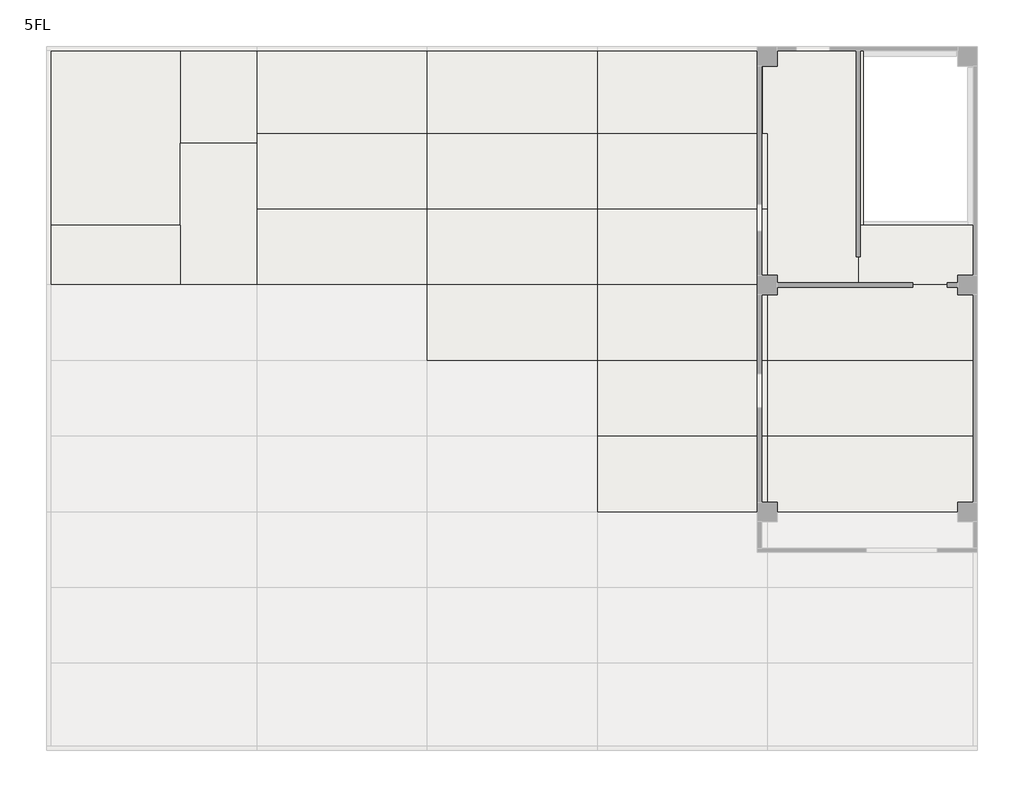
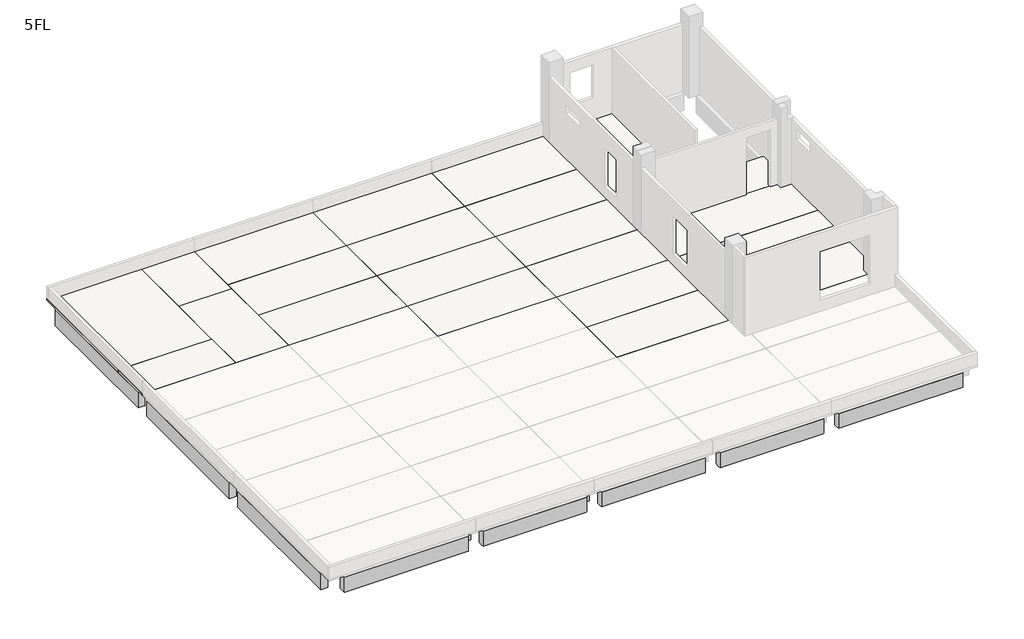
# One storey, part 2 of 3: 22 slabs, 17 beams.
"""IFC4 building model written with IfcOpenShell, lengths in millimetres."""

from ifc_helpers import new_model, si_unit, frame, origin, place, context, project, spatial, polyline, outline, extrude, faceted_brep, element, save

model = new_model("IFC4")

# Units and contexts
model_context = context("Model", 3, world=origin())
ifc_project = project(units=[si_unit("LENGTHUNIT", "METRE", prefix="MILLI")], contexts=[model_context])

# Site, building, storey
site = spatial("IfcSite", under=ifc_project)
building = spatial("IfcBuilding", under=site)
storey = spatial("IfcBuildingStorey", under=building, Name="5FL", Elevation=16400.0)

# Beams
placement = place(None, origin())
element("IfcBeam", 1, ObjectType="RC_B : 5G1", at=placement, inside=storey, context=model_context, shape_type="Brep", body=[
    faceted_brep([(6625.0, -50.0, 16240.0), (6625.0, -50.0, 15450.0), (350.0, -50.0, 15450.0), (350.0, -50.0, 16240.0), (6625.0, -400.0, 15450.0), (6600.0, -400.0, 15450.0), (375.0, -400.0, 15450.0), (350.0, -400.0, 15450.0), (6625.0, -400.0, 16240.0), (350.0, -400.0, 16240.0)], [[[0, 1, 2, 3]], [[1, 4, 5, 6, 7, 2]], [[4, 8, 9, 7, 6, 5]], [[4, 1, 0, 8]], [[8, 0, 3, 9]], [[3, 2, 7, 9]]]),
])
element("IfcBeam", 2, ObjectType="RC_B : 5G1", at=placement, inside=storey, context=model_context, shape_type="Brep", body=[
    faceted_brep([(12625.0, -50.0, 15450.0), (7375.0, -50.0, 15450.0), (7375.0, -50.0, 16240.0), (12625.0, -50.0, 16240.0), (7375.0, -400.0, 15450.0), (7375.0, -250.0, 15450.0), (12625.0, -400.0, 15450.0), (12600.0, -400.0, 15450.0), (12625.0, -400.0, 16240.0), (7375.0, -400.0, 16240.0)], [[[0, 1, 2, 3]], [[4, 5, 1, 0, 6, 7]], [[4, 7, 6, 8, 9]], [[1, 5, 4, 9, 2]], [[6, 0, 3, 8]], [[3, 2, 9, 8]]]),
])
element("IfcBeam", 3, ObjectType="RC_B : 5G1", at=placement, inside=storey, context=model_context, shape_type="Brep", body=[
    faceted_brep([(18625.0, -50.0, 15450.0), (13375.0, -50.0, 15450.0), (13375.0, -50.0, 16240.0), (18625.0, -50.0, 16240.0), (13375.0, -400.0, 15450.0), (13375.0, -250.0, 15450.0), (18625.0, -400.0, 15450.0), (18600.0, -400.0, 15450.0), (18625.0, -400.0, 16240.0), (13375.0, -400.0, 16240.0)], [[[0, 1, 2, 3]], [[4, 5, 1, 0, 6, 7]], [[4, 7, 6, 8, 9]], [[1, 5, 4, 9, 2]], [[6, 0, 3, 8]], [[3, 2, 9, 8]]]),
])
element("IfcBeam", 4, ObjectType="RC_B : 5G1", at=placement, inside=storey, context=model_context, shape_type="Brep", body=[
    faceted_brep([(24625.0, -50.0, 15450.0), (19375.0, -50.0, 15450.0), (19375.0, -50.0, 16240.0), (24625.0, -50.0, 16240.0), (19375.0, -400.0, 15450.0), (19375.0, -250.0, 15450.0), (24625.0, -400.0, 15450.0), (24600.0, -400.0, 15450.0), (24625.0, -400.0, 16240.0), (19375.0, -400.0, 16240.0)], [[[0, 1, 2, 3]], [[4, 5, 1, 0, 6, 7]], [[4, 7, 6, 8, 9]], [[1, 5, 4, 9, 2]], [[6, 0, 3, 8]], [[3, 2, 9, 8]]]),
])
element("IfcBeam", 5, ObjectType="RC_B : 5G1", at=placement, inside=storey, context=model_context, shape_type="Brep", body=[
    faceted_brep([(31650.0, -50.0, 15450.0), (25375.0, -50.0, 15450.0), (25375.0, -50.0, 16240.0), (31650.0, -50.0, 16240.0), (25375.0, -400.0, 15450.0), (25375.0, -250.0, 15450.0), (31650.0, -250.0, 15450.0), (31650.0, -400.0, 15450.0), (31650.0, -400.0, 16240.0), (25375.0, -400.0, 16240.0)], [[[0, 1, 2, 3]], [[4, 5, 1, 0, 6, 7]], [[4, 7, 8, 9]], [[1, 5, 4, 9, 2]], [[7, 6, 0, 3, 8]], [[3, 2, 9, 8]]]),
])
element("IfcBeam", 6, ObjectType="RC_B : 5G11", at=placement, inside=storey, context=model_context, shape_type="Brep", body=[
    faceted_brep([(-400.0, 7625.0, 16240.0), (-400.0, 7625.0, 15400.0), (-400.0, 350.0, 15400.0), (-400.0, 350.0, 16240.0), (-400.0, 2664.0, 16240.0), (-400.0, 5328.0, 16240.0), (-250.0, 7625.0, 15400.0), (-50.0, 7625.0, 15400.0), (-50.0, 350.0, 15400.0), (-250.0, 350.0, 15400.0), (-50.0, 7625.0, 16240.0), (-50.0, 5505.0, 16240.0), (-50.0, 5155.0, 16240.0), (-50.0, 2835.0, 16240.0), (-50.0, 2485.0, 16240.0), (-50.0, 350.0, 16240.0)], [[[0, 1, 2, 3, 4, 5]], [[1, 6, 7, 8, 9, 2]], [[7, 10, 11, 12, 13, 14, 15, 8]], [[7, 6, 1, 0, 10]], [[10, 0, 5, 4, 3, 15, 14, 13, 12, 11]], [[3, 2, 9, 8, 15]]]),
])
element("IfcBeam", 7, ObjectType="RC_B : 5G11", at=placement, inside=storey, context=model_context, shape_type="Brep", body=[
    faceted_brep([(-400.0, 15625.0, 16240.0), (-400.0, 15625.0, 15400.0), (-400.0, 8375.0, 15400.0), (-400.0, 8375.0, 16240.0), (-400.0, 10664.0, 16240.0), (-400.0, 13328.0, 16240.0), (-250.0, 15625.0, 15400.0), (-50.0, 15625.0, 15400.0), (-50.0, 8375.0, 15400.0), (-250.0, 8375.0, 15400.0), (-50.0, 15625.0, 16240.0), (-50.0, 13675.0, 16240.0), (-50.0, 13325.0, 16240.0), (-50.0, 10925.0, 16240.0), (-50.0, 10575.0, 16240.0), (-50.0, 8375.0, 16240.0)], [[[0, 1, 2, 3, 4, 5]], [[1, 6, 7, 8, 9, 2]], [[7, 10, 11, 12, 13, 14, 15, 8]], [[7, 6, 1, 0, 10]], [[10, 0, 5, 4, 3, 15, 14, 13, 12, 11]], [[3, 2, 9, 8, 15]]]),
])
element("IfcBeam", 8, ObjectType="RC_B : 5G11", at=placement, inside=storey, context=model_context, shape_type="Brep", body=[
    faceted_brep([(-400.0, 23650.0, 16240.0), (-400.0, 23650.0, 15400.0), (-400.0, 16375.0, 15400.0), (-400.0, 16375.0, 16240.0), (-400.0, 18100.0, 16240.0), (-250.0, 23650.0, 15400.0), (-50.0, 23650.0, 15400.0), (-50.0, 16375.0, 15400.0), (-250.0, 16375.0, 15400.0), (-50.0, 23650.0, 16240.0), (-50.0, 18225.0, 16240.0), (-50.0, 17975.0, 16240.0), (-50.0, 16375.0, 16240.0)], [[[0, 1, 2, 3, 4]], [[1, 5, 6, 7, 8, 2]], [[6, 9, 10, 11, 12, 7]], [[6, 5, 1, 0, 9]], [[9, 0, 4, 3, 12, 11, 10]], [[3, 2, 8, 7, 12]]]),
])
element("IfcBeam", 9, ObjectType="RC_B : 5G12", at=placement, inside=storey, context=model_context, shape_type="Brep", body=[
    faceted_brep([(6825.0, 350.0, 15400.0), (6825.0, 350.0, 16300.0), (6825.0, 2664.0, 16300.0), (6825.0, 2664.0, 16240.0), (6825.0, 2835.0, 16240.0), (6825.0, 5155.0, 16240.0), (6825.0, 5505.0, 16240.0), (6825.0, 7625.0, 16240.0), (6825.0, 7625.0, 15400.0), (7175.0, 350.0, 15400.0), (7175.0, 7625.0, 15400.0), (7175.0, 350.0, 16300.0), (7175.0, 7625.0, 16240.0), (7175.0, 2664.0, 16240.0), (7175.0, 2664.0, 16300.0), (7175.0, 2485.0, 16300.0), (7000.0, 7625.0, 16240.0), (7000.0, 2664.0, 16240.0)], [[[0, 1, 2, 3, 4, 5, 6, 7, 8]], [[9, 0, 8, 10]], [[11, 9, 10, 12, 13, 14, 15]], [[1, 11, 15, 14, 2]], [[1, 0, 9, 11]], [[10, 8, 7, 16, 12]], [[7, 6, 5, 4, 3, 17, 13, 12, 16]], [[3, 2, 14, 13, 17]]]),
])
element("IfcBeam", 10, ObjectType="RC_B : 5G12", at=placement, inside=storey, context=model_context, shape_type="Brep", body=[
    faceted_brep([(12825.0, 350.0, 15400.0), (12825.0, 350.0, 16300.0), (12825.0, 2485.0, 16300.0), (12825.0, 2664.0, 16300.0), (12825.0, 2664.0, 16240.0), (12825.0, 7625.0, 16240.0), (12825.0, 7625.0, 15400.0), (13175.0, 350.0, 15400.0), (13175.0, 7625.0, 15400.0), (13175.0, 350.0, 16300.0), (13175.0, 7625.0, 16240.0), (13175.0, 2664.0, 16240.0), (13175.0, 2664.0, 16300.0), (13175.0, 2485.0, 16300.0), (13000.0, 7625.0, 16240.0)], [[[0, 1, 2, 3, 4, 5, 6]], [[7, 0, 6, 8]], [[9, 7, 8, 10, 11, 12, 13]], [[1, 9, 13, 12, 3, 2]], [[1, 0, 7, 9]], [[8, 6, 5, 14, 10]], [[5, 4, 11, 10, 14]], [[4, 3, 12, 11]]]),
])
element("IfcBeam", 11, ObjectType="RC_B : 5G2", at=placement, inside=storey, context=model_context, shape_type="Brep", body=[
    faceted_brep([(6625.0, 8175.0, 15450.0), (0.0, 8175.0, 15450.0), (0.0, 8175.0, 16240.0), (6625.0, 8175.0, 16240.0), (6625.0, 7825.0, 15450.0), (0.0, 7825.0, 15450.0), (6625.0, 7825.0, 16240.0), (0.0, 7825.0, 16240.0), (6625.0, 8000.0, 16240.0)], [[[0, 1, 2, 3]], [[0, 4, 5, 1]], [[5, 4, 6, 7]], [[4, 0, 3, 8, 6]], [[1, 5, 7, 2]], [[7, 6, 8, 3, 2]]]),
])
element("IfcBeam", 12, ObjectType="RC_B : B1", at=placement, inside=storey, context=model_context, shape_type="Brep", body=[
    faceted_brep([(6825.0, 2835.0, 15550.0), (-50.0, 2835.0, 15550.0), (-50.0, 2835.0, 16240.0), (6825.0, 2835.0, 16240.0), (6825.0, 2485.0, 15550.0), (-50.0, 2485.0, 15550.0), (6825.0, 2485.0, 16240.0), (-50.0, 2485.0, 16240.0), (6825.0, 2664.0, 16240.0)], [[[0, 1, 2, 3]], [[0, 4, 5, 1]], [[5, 4, 6, 7]], [[4, 0, 3, 8, 6]], [[1, 5, 7, 2]], [[7, 6, 8, 3, 2]]]),
])
element("IfcBeam", 13, ObjectType="RC_B : B1", at=placement, inside=storey, context=model_context, shape_type="SweptSolid", body=[
    extrude(outline(polyline([(6825.0, 5505.0), (6825.0, 5155.0), (-50.0, 5155.0), (-50.0, 5505.0), (6825.0, 5505.0)])), frame((0.0, 0.0, 15550.0), z_axis=(0.0, 0.0, 1.0), x_axis=(1.0, 0.0, 0.0)), (0.0, 0.0, 1.0), 690.0),
])
element("IfcBeam", 14, ObjectType="RC_B : B1", at=placement, inside=storey, context=model_context, shape_type="Brep", body=[
    faceted_brep([(7175.0, 2835.0, 15550.0), (7175.0, 2835.0, 16300.0), (12825.0, 2835.0, 16300.0), (12825.0, 2835.0, 15550.0), (7175.0, 2485.0, 15550.0), (12825.0, 2485.0, 15550.0), (7175.0, 2485.0, 16300.0), (12825.0, 2485.0, 16300.0), (7175.0, 2664.0, 16300.0), (12825.0, 2664.0, 16300.0)], [[[0, 1, 2, 3]], [[4, 0, 3, 5]], [[6, 4, 5, 7]], [[1, 8, 6, 7, 9, 2]], [[1, 0, 4, 6, 8]], [[3, 2, 9, 7, 5]]]),
])
element("IfcBeam", 15, ObjectType="RC_B : B1", at=placement, inside=storey, context=model_context, shape_type="SweptSolid", body=[
    extrude(outline(polyline([(7175.0, 5155.0), (7175.0, 5505.0), (12825.0, 5505.0), (12825.0, 5155.0), (7175.0, 5155.0)])), frame((0.0, 0.0, 15550.0), z_axis=(0.0, 0.0, 1.0), x_axis=(1.0, 0.0, 0.0)), (0.0, 0.0, 1.0), 750.0),
])
element("IfcBeam", 16, ObjectType="RC_B : B1", at=placement, inside=storey, context=model_context, shape_type="Brep", body=[
    faceted_brep([(6825.0, 10925.0, 15550.0), (-50.0, 10925.0, 15550.0), (-50.0, 10925.0, 16240.0), (6825.0, 10925.0, 16240.0), (6825.0, 10575.0, 15550.0), (-50.0, 10575.0, 15550.0), (6825.0, 10575.0, 16240.0), (-50.0, 10575.0, 16240.0), (6825.0, 10664.0, 16240.0)], [[[0, 1, 2, 3]], [[0, 4, 5, 1]], [[5, 4, 6, 7]], [[4, 0, 3, 8, 6]], [[1, 5, 7, 2]], [[7, 6, 8, 3, 2]]]),
])
element("IfcBeam", 17, ObjectType="RC_B : B1", at=placement, inside=storey, context=model_context, shape_type="SweptSolid", body=[
    extrude(outline(polyline([(6825.0, 13675.0), (6825.0, 13325.0), (-50.0, 13325.0), (-50.0, 13675.0), (6825.0, 13675.0)])), frame((0.0, 0.0, 15550.0), z_axis=(0.0, 0.0, 1.0), x_axis=(1.0, 0.0, 0.0)), (0.0, 0.0, 1.0), 690.0),
])

# Slabs
element("IfcSlab", 18, ObjectType="S1", at=placement, inside=storey, context=model_context, shape_type="Brep", body=[
    faceted_brep([(25000.0, 10664.0, 16240.0), (32400.0, 10664.0, 16240.0), (32400.0, 8375.0, 16240.0), (32050.0, 8375.0, 16240.0), (31650.0, 8375.0, 16240.0), (31650.0, 8175.0, 16240.0), (31650.0, 8000.0, 16240.0), (25375.0, 8000.0, 16240.0), (25375.0, 8375.0, 16240.0), (25000.0, 8375.0, 16240.0), (25000.0, 8000.0, 16390.0), (32400.0, 8000.0, 16390.0), (32400.0, 8350.0, 16390.0), (32400.0, 10664.0, 16390.0), (25000.0, 10664.0, 16390.0), (25000.0, 8000.0, 16300.0), (25375.0, 8000.0, 16300.0), (31650.0, 8000.0, 16300.0), (32400.0, 8000.0, 16300.0), (25000.0, 8375.0, 16300.0), (32400.0, 8375.0, 16300.0), (25375.0, 8375.0, 16300.0), (31650.0, 8375.0, 16300.0)], [[[0, 1, 2, 3, 4, 5, 6, 7, 8, 9]], [[10, 11, 12, 13, 14]], [[11, 10, 15, 16, 7, 6, 17, 18]], [[10, 14, 0, 9, 19, 15]], [[1, 0, 14, 13]], [[13, 12, 11, 18, 20, 2, 1]], [[21, 8, 7, 16]], [[8, 21, 19, 9]], [[21, 16, 15, 19]], [[4, 22, 17, 6, 5]], [[20, 22, 4, 3, 2]], [[22, 20, 18, 17]]]),
])
element("IfcSlab", 19, ObjectType="S1", at=placement, inside=storey, context=model_context, shape_type="Brep", body=[
    faceted_brep([(32400.0, 13328.0, 16240.0), (32400.0, 10664.0, 16240.0), (25175.0, 10664.0, 16240.0), (25000.0, 10664.0, 16240.0), (25000.0, 13328.0, 16240.0), (32400.0, 13328.0, 16390.0), (25000.0, 13328.0, 16390.0), (25000.0, 10664.0, 16390.0), (32400.0, 10664.0, 16390.0)], [[[0, 1, 2, 3, 4]], [[5, 6, 7, 8]], [[1, 0, 5, 8]], [[3, 2, 1, 8, 7]], [[4, 3, 7, 6]], [[0, 4, 6, 5]]]),
])
element("IfcSlab", 20, ObjectType="S1", at=placement, inside=storey, context=model_context, shape_type="Brep", body=[
    faceted_brep([(32400.0, 13328.0, 16240.0), (25000.0, 13328.0, 16240.0), (25000.0, 15625.0, 16240.0), (25175.0, 15625.0, 16240.0), (25375.0, 15625.0, 16240.0), (25375.0, 16000.0, 16240.0), (28024.0, 16000.0, 16240.0), (28221.0, 16000.0, 16240.0), (31650.0, 16000.0, 16240.0), (31650.0, 15825.0, 16240.0), (31650.0, 15625.0, 16240.0), (32050.0, 15625.0, 16240.0), (32400.0, 15625.0, 16240.0), (25000.0, 13328.0, 16390.0), (32400.0, 13328.0, 16390.0), (32400.0, 15650.0, 16390.0), (32250.0, 15650.0, 16390.0), (31700.0, 15650.0, 16390.0), (31700.0, 16000.0, 16390.0), (28221.0, 16000.0, 16390.0), (25350.0, 16000.0, 16390.0), (25350.0, 15650.0, 16390.0), (25000.0, 15650.0, 16390.0), (32400.0, 15625.0, 16300.0), (32400.0, 15650.0, 16300.0), (25000.0, 15650.0, 16300.0), (25000.0, 15625.0, 16300.0), (25375.0, 16000.0, 16300.0), (25350.0, 16000.0, 16300.0), (31700.0, 16000.0, 16300.0), (31650.0, 16000.0, 16300.0), (25375.0, 15625.0, 16300.0), (25350.0, 15650.0, 16300.0), (31650.0, 15625.0, 16300.0), (31700.0, 15650.0, 16300.0)], [[[0, 1, 2, 3, 4, 5, 6, 7, 8, 9, 10, 11, 12]], [[13, 14, 15, 16, 17, 18, 19, 20, 21, 22]], [[14, 0, 12, 23, 24, 15]], [[1, 0, 14, 13]], [[1, 13, 22, 25, 26, 2]], [[5, 27, 28, 20, 19, 18, 29, 30, 8, 7, 6]], [[4, 31, 27, 5]], [[31, 4, 3, 2, 26]], [[27, 31, 26, 25, 32, 28]], [[32, 21, 20, 28]], [[21, 32, 25, 22]], [[33, 23, 12, 11, 10]], [[33, 10, 9, 8, 30]], [[23, 33, 30, 29, 34, 24]], [[34, 17, 16, 15, 24]], [[17, 34, 29, 18]]]),
])
element("IfcSlab", 21, ObjectType="S1", at=placement, inside=storey, context=model_context, shape_type="Brep", body=[
    faceted_brep([(25375.0, 16000.0, 16240.0), (25375.0, 16375.0, 16240.0), (25000.0, 16375.0, 16240.0), (25000.0, 18664.0, 16240.0), (25000.0, 21165.0, 16240.0), (25000.0, 21328.0, 16240.0), (24825.0, 21328.0, 16240.0), (24825.0, 21515.0, 16240.0), (24825.0, 23650.0, 16240.0), (25175.0, 23650.0, 16240.0), (25375.0, 23650.0, 16240.0), (25375.0, 24050.0, 16240.0), (28024.0, 24050.0, 16240.0), (28024.0, 16000.0, 16240.0), (25350.0, 16350.0, 16390.0), (25350.0, 16000.0, 16390.0), (28221.0, 16000.0, 16390.0), (28221.0, 18100.0, 16390.0), (28374.0, 18100.0, 16390.0), (28374.0, 24250.0, 16390.0), (28374.0, 24400.0, 16390.0), (25350.0, 24400.0, 16390.0), (25350.0, 24250.0, 16390.0), (25350.0, 23700.0, 16390.0), (24825.0, 23700.0, 16390.0), (24825.0, 21328.0, 16390.0), (25000.0, 21328.0, 16390.0), (25000.0, 18664.0, 16390.0), (25000.0, 16350.0, 16390.0), (25375.0, 16000.0, 16300.0), (28024.0, 16000.0, 16300.0), (28221.0, 16000.0, 16300.0), (25350.0, 16000.0, 16300.0), (24825.0, 23650.0, 16300.0), (24825.0, 21328.0, 16300.0), (24825.0, 23700.0, 16300.0), (28374.0, 24400.0, 16300.0), (25375.0, 24400.0, 16300.0), (25350.0, 24400.0, 16300.0), (28374.0, 18100.0, 16300.0), (28374.0, 24050.0, 16300.0), (28374.0, 24250.0, 16300.0), (25375.0, 16375.0, 16300.0), (25000.0, 16375.0, 16300.0), (25350.0, 16350.0, 16300.0), (25000.0, 16350.0, 16300.0), (25375.0, 23650.0, 16300.0), (25375.0, 24050.0, 16300.0), (25350.0, 23700.0, 16300.0), (28221.0, 18100.0, 16300.0), (28221.0, 16175.0, 16300.0), (28024.0, 16175.0, 16300.0), (28024.0, 24050.0, 16300.0), (25000.0, 21328.0, 16300.0)], [[[0, 1, 2, 3, 4, 5, 6, 7, 8, 9, 10, 11, 12, 13]], [[14, 15, 16, 17, 18, 19, 20, 21, 22, 23, 24, 25, 26, 27, 28]], [[29, 0, 13, 30, 31, 16, 15, 32]], [[33, 8, 7, 6, 34, 25, 24, 35]], [[21, 20, 36, 37, 38]], [[36, 20, 19, 18, 39, 40, 41]], [[42, 1, 0, 29]], [[1, 42, 43, 2]], [[42, 29, 32, 44, 45, 43]], [[14, 44, 32, 15]], [[44, 14, 28, 45]], [[10, 46, 47, 11]], [[46, 10, 9, 8, 33]], [[46, 33, 35, 48, 38, 37, 36, 41, 40, 39, 49, 50, 31, 30, 51, 52, 47]], [[48, 23, 22, 21, 38]], [[23, 48, 35, 24]], [[30, 13, 12, 52, 51]], [[47, 52, 12, 11]], [[49, 17, 16, 31, 50]], [[17, 49, 39, 18]], [[26, 53, 5, 4, 3, 2, 43, 45, 28, 27]], [[5, 53, 26, 25, 34, 6]]]),
])
element("IfcSlab", 22, ObjectType="S2", at=placement, inside=storey, context=model_context, shape_type="Brep", body=[
    faceted_brep([(13375.0, 15625.0, 16240.0), (13375.0, 15825.0, 16240.0), (13375.0, 16000.0, 16240.0), (18625.0, 16000.0, 16240.0), (18625.0, 15825.0, 16240.0), (18625.0, 15625.0, 16240.0), (18825.0, 15625.0, 16240.0), (19000.0, 15625.0, 16240.0), (19000.0, 13675.0, 16240.0), (13000.0, 13675.0, 16240.0), (13000.0, 15625.0, 16240.0), (13175.0, 15625.0, 16240.0), (19000.0, 13328.0, 16390.0), (19000.0, 16000.0, 16390.0), (13000.0, 16000.0, 16390.0), (13000.0, 13328.0, 16390.0), (19000.0, 13328.0, 16300.0), (19000.0, 13675.0, 16300.0), (19000.0, 15625.0, 16300.0), (19000.0, 16000.0, 16300.0), (13000.0, 13328.0, 16300.0), (13000.0, 16000.0, 16300.0), (13000.0, 15625.0, 16300.0), (13000.0, 13675.0, 16300.0), (18625.0, 16000.0, 16300.0), (13375.0, 16000.0, 16300.0), (13375.0, 15625.0, 16300.0), (18625.0, 15625.0, 16300.0), (18825.0, 13675.0, 16300.0), (13175.0, 13675.0, 16300.0)], [[[0, 1, 2, 3, 4, 5, 6, 7, 8, 9, 10, 11]], [[12, 13, 14, 15]], [[13, 12, 16, 17, 8, 7, 18, 19]], [[12, 15, 20, 16]], [[15, 14, 21, 22, 10, 9, 23, 20]], [[14, 13, 19, 24, 3, 2, 25, 21]], [[0, 26, 25, 2, 1]], [[26, 0, 11, 10, 22]], [[25, 26, 22, 21]], [[5, 27, 18, 7, 6]], [[27, 5, 4, 3, 24]], [[18, 27, 24, 19]], [[17, 28, 29, 23, 9, 8]], [[23, 29, 28, 17, 16, 20]]]),
])
element("IfcSlab", 23, ObjectType="S2", at=placement, inside=storey, context=model_context, shape_type="Brep", body=[
    faceted_brep([(19375.0, 8000.0, 16240.0), (19375.0, 8175.0, 16240.0), (19375.0, 8375.0, 16240.0), (19175.0, 8375.0, 16240.0), (19000.0, 8375.0, 16240.0), (19000.0, 10575.0, 16240.0), (24912.3, 10575.0, 16240.0), (24912.3, 10664.0, 16240.0), (25000.0, 10664.0, 16240.0), (25000.0, 8375.0, 16240.0), (24625.0, 8375.0, 16240.0), (24625.0, 8175.0, 16240.0), (24625.0, 8000.0, 16240.0), (19000.0, 8000.0, 16390.0), (25000.0, 8000.0, 16390.0), (25000.0, 10664.0, 16390.0), (19000.0, 10664.0, 16390.0), (19000.0, 8000.0, 16300.0), (19375.0, 8000.0, 16300.0), (24625.0, 8000.0, 16300.0), (25000.0, 8000.0, 16300.0), (19000.0, 10664.0, 16300.0), (19000.0, 10575.0, 16300.0), (19000.0, 8375.0, 16300.0), (24912.3, 10664.0, 16300.0), (25000.0, 8375.0, 16300.0), (19375.0, 8375.0, 16300.0), (24625.0, 8375.0, 16300.0), (19175.0, 10575.0, 16300.0), (24825.0, 10575.0, 16300.0), (24912.3, 10575.0, 16300.0)], [[[0, 1, 2, 3, 4, 5, 6, 7, 8, 9, 10, 11, 12]], [[13, 14, 15, 16]], [[14, 13, 17, 18, 0, 12, 19, 20]], [[13, 16, 21, 22, 5, 4, 23, 17]], [[16, 15, 8, 7, 24, 21]], [[15, 14, 20, 25, 9, 8]], [[26, 2, 1, 0, 18]], [[2, 26, 23, 4, 3]], [[26, 18, 17, 23]], [[10, 27, 19, 12, 11]], [[27, 10, 9, 25]], [[19, 27, 25, 20]], [[22, 28, 29, 30, 6, 5]], [[30, 29, 28, 22, 21, 24]], [[6, 30, 24, 7]]]),
])
element("IfcSlab", 24, ObjectType="S2", at=placement, inside=storey, context=model_context, shape_type="Brep", body=[
    faceted_brep([(25000.0, 13328.0, 16240.0), (25000.0, 10664.0, 16240.0), (24912.3, 10664.0, 16240.0), (24912.3, 10925.0, 16240.0), (19000.0, 10925.0, 16240.0), (19000.0, 13325.0, 16240.0), (24912.3, 13325.0, 16240.0), (24912.3, 13328.0, 16240.0), (25000.0, 10664.0, 16390.0), (25000.0, 13328.0, 16390.0), (19000.0, 13328.0, 16390.0), (19000.0, 10664.0, 16390.0), (19000.0, 10664.0, 16300.0), (24912.3, 10664.0, 16300.0), (19000.0, 13328.0, 16300.0), (19000.0, 13325.0, 16300.0), (19000.0, 10925.0, 16300.0), (24912.3, 13328.0, 16300.0), (24912.3, 10925.0, 16300.0), (24825.0, 10925.0, 16300.0), (19175.0, 10925.0, 16300.0), (19175.0, 13325.0, 16300.0), (24825.0, 13325.0, 16300.0), (24912.3, 13325.0, 16300.0)], [[[0, 1, 2, 3, 4, 5, 6, 7]], [[8, 9, 10, 11]], [[1, 0, 9, 8]], [[8, 11, 12, 13, 2, 1]], [[11, 10, 14, 15, 5, 4, 16, 12]], [[10, 9, 0, 7, 17, 14]], [[4, 3, 18, 19, 20, 16]], [[15, 21, 22, 23, 6, 5]], [[13, 12, 16, 20, 19, 18]], [[23, 22, 21, 15, 14, 17]], [[18, 3, 2, 13]], [[6, 23, 17, 7]]]),
])
element("IfcSlab", 25, ObjectType="S2", at=placement, inside=storey, context=model_context, shape_type="Brep", body=[
    faceted_brep([(19375.0, 15625.0, 16240.0), (19375.0, 15825.0, 16240.0), (19375.0, 16000.0, 16240.0), (24625.0, 16000.0, 16240.0), (24625.0, 15825.0, 16240.0), (24625.0, 15625.0, 16240.0), (24825.0, 15625.0, 16240.0), (25000.0, 15625.0, 16240.0), (25000.0, 13328.0, 16240.0), (24912.3, 13328.0, 16240.0), (24912.3, 13675.0, 16240.0), (19000.0, 13675.0, 16240.0), (19000.0, 15625.0, 16240.0), (19175.0, 15625.0, 16240.0), (19000.0, 13328.0, 16390.0), (25000.0, 13328.0, 16390.0), (25000.0, 15650.0, 16390.0), (24650.0, 15650.0, 16390.0), (24650.0, 16000.0, 16390.0), (19000.0, 16000.0, 16390.0), (25000.0, 15625.0, 16300.0), (25000.0, 15650.0, 16300.0), (19000.0, 13328.0, 16300.0), (24912.3, 13328.0, 16300.0), (19000.0, 16000.0, 16300.0), (19000.0, 15625.0, 16300.0), (19000.0, 13675.0, 16300.0), (24650.0, 16000.0, 16300.0), (24625.0, 16000.0, 16300.0), (19375.0, 16000.0, 16300.0), (19375.0, 15625.0, 16300.0), (24625.0, 15625.0, 16300.0), (24650.0, 15650.0, 16300.0), (24912.3, 13675.0, 16300.0), (24825.0, 13675.0, 16300.0), (19175.0, 13675.0, 16300.0)], [[[0, 1, 2, 3, 4, 5, 6, 7, 8, 9, 10, 11, 12, 13]], [[14, 15, 16, 17, 18, 19]], [[15, 8, 7, 20, 21, 16]], [[15, 14, 22, 23, 9, 8]], [[14, 19, 24, 25, 12, 11, 26, 22]], [[24, 19, 18, 27, 28, 3, 2, 29]], [[0, 30, 29, 2, 1]], [[30, 0, 13, 12, 25]], [[29, 30, 25, 24]], [[5, 31, 20, 7, 6]], [[31, 5, 4, 3, 28]], [[20, 31, 28, 27, 32, 21]], [[32, 17, 16, 21]], [[17, 32, 27, 18]], [[10, 33, 34, 35, 26, 11]], [[26, 35, 34, 33, 23, 22]], [[33, 10, 9, 23]]]),
])
element("IfcSlab", 26, ObjectType="S2", at=placement, inside=storey, context=model_context, shape_type="Brep", body=[
    faceted_brep([(7000.0, 16375.0, 16240.0), (7000.0, 18664.0, 16240.0), (7087.7, 18664.0, 16240.0), (7087.7, 18495.0, 16240.0), (13000.0, 18495.0, 16240.0), (13000.0, 16375.0, 16240.0), (12625.0, 16375.0, 16240.0), (12625.0, 16000.0, 16240.0), (7375.0, 16000.0, 16240.0), (7375.0, 16375.0, 16240.0), (7000.0, 16000.0, 16390.0), (13000.0, 16000.0, 16390.0), (13000.0, 18664.0, 16390.0), (7000.0, 18664.0, 16390.0), (7000.0, 16000.0, 16300.0), (7375.0, 16000.0, 16300.0), (12625.0, 16000.0, 16300.0), (13000.0, 16000.0, 16300.0), (7000.0, 16375.0, 16300.0), (13000.0, 18664.0, 16300.0), (7087.7, 18664.0, 16300.0), (13000.0, 16375.0, 16300.0), (13000.0, 18495.0, 16300.0), (7375.0, 16375.0, 16300.0), (12625.0, 16375.0, 16300.0), (7087.7, 18495.0, 16300.0), (7175.0, 18495.0, 16300.0), (12825.0, 18495.0, 16300.0)], [[[0, 1, 2, 3, 4, 5, 6, 7, 8, 9]], [[10, 11, 12, 13]], [[11, 10, 14, 15, 8, 7, 16, 17]], [[10, 13, 1, 0, 18, 14]], [[13, 12, 19, 20, 2, 1]], [[12, 11, 17, 21, 5, 4, 22, 19]], [[23, 9, 8, 15]], [[9, 23, 18, 0]], [[23, 15, 14, 18]], [[6, 24, 16, 7]], [[24, 6, 5, 21]], [[16, 24, 21, 17]], [[25, 26, 27, 22, 4, 3]], [[22, 27, 26, 25, 20, 19]], [[25, 3, 2, 20]]]),
])
element("IfcSlab", 27, ObjectType="S2", at=placement, inside=storey, context=model_context, shape_type="Brep", body=[
    faceted_brep([(7000.0, 18664.0, 16240.0), (7000.0, 21000.0, 16240.0), (7000.0, 21328.0, 16240.0), (7087.7, 21328.0, 16240.0), (7087.7, 21165.0, 16240.0), (13000.0, 21165.0, 16240.0), (13000.0, 18845.0, 16240.0), (7087.7, 18845.0, 16240.0), (7087.7, 18664.0, 16240.0), (13000.0, 18664.0, 16390.0), (13000.0, 21328.0, 16390.0), (7000.0, 21328.0, 16390.0), (7000.0, 21000.0, 16390.0), (7000.0, 18664.0, 16390.0), (13000.0, 18664.0, 16300.0), (13000.0, 18845.0, 16300.0), (13000.0, 21165.0, 16300.0), (13000.0, 21328.0, 16300.0), (7000.0, 18664.0, 16300.0), (7087.7, 18664.0, 16300.0), (7087.7, 21328.0, 16300.0), (12825.0, 18845.0, 16300.0), (7175.0, 18845.0, 16300.0), (7087.7, 18845.0, 16300.0), (7087.7, 21165.0, 16300.0), (7175.0, 21165.0, 16300.0), (12825.0, 21165.0, 16300.0)], [[[0, 1, 2, 3, 4, 5, 6, 7, 8]], [[9, 10, 11, 12, 13]], [[10, 9, 14, 15, 6, 5, 16, 17]], [[9, 13, 18, 0, 8, 19, 14]], [[2, 1, 0, 18, 13, 12, 11]], [[11, 10, 17, 20, 3, 2]], [[7, 6, 15, 21, 22, 23]], [[24, 25, 26, 16, 5, 4]], [[15, 14, 19, 23, 22, 21]], [[16, 26, 25, 24, 20, 17]], [[7, 23, 19, 8]], [[24, 4, 3, 20]]]),
])
element("IfcSlab", 28, ObjectType="S2", at=placement, inside=storey, context=model_context, shape_type="Brep", body=[
    faceted_brep([(7000.0, 21328.0, 16240.0), (7000.0, 23650.0, 16240.0), (7175.0, 23650.0, 16240.0), (7375.0, 23650.0, 16240.0), (7375.0, 24050.0, 16240.0), (7375.0, 24400.0, 16240.0), (12625.0, 24400.0, 16240.0), (12625.0, 24050.0, 16240.0), (12625.0, 23650.0, 16240.0), (12825.0, 23650.0, 16240.0), (13000.0, 23650.0, 16240.0), (13000.0, 21515.0, 16240.0), (7087.7, 21515.0, 16240.0), (7087.7, 21328.0, 16240.0), (13000.0, 21328.0, 16390.0), (13000.0, 24250.0, 16390.0), (13000.0, 24400.0, 16390.0), (7000.0, 24400.0, 16390.0), (7000.0, 24250.0, 16390.0), (7000.0, 21328.0, 16390.0), (13000.0, 21328.0, 16300.0), (13000.0, 21515.0, 16300.0), (13000.0, 23650.0, 16300.0), (13000.0, 24400.0, 16300.0), (7087.7, 21328.0, 16300.0), (7000.0, 24400.0, 16300.0), (7000.0, 23650.0, 16300.0), (12625.0, 24400.0, 16300.0), (7375.0, 24400.0, 16300.0), (7375.0, 23650.0, 16300.0), (12625.0, 23650.0, 16300.0), (7087.7, 21515.0, 16300.0), (12825.0, 21515.0, 16300.0), (7175.0, 21515.0, 16300.0)], [[[0, 1, 2, 3, 4, 5, 6, 7, 8, 9, 10, 11, 12, 13]], [[14, 15, 16, 17, 18, 19]], [[16, 15, 14, 20, 21, 11, 10, 22, 23]], [[14, 19, 0, 13, 24, 20]], [[19, 18, 17, 25, 26, 1, 0]], [[17, 16, 23, 27, 6, 5, 28, 25]], [[29, 28, 5, 4, 3]], [[29, 3, 2, 1, 26]], [[28, 29, 26, 25]], [[8, 30, 22, 10, 9]], [[27, 30, 8, 7, 6]], [[30, 27, 23, 22]], [[31, 12, 11, 21, 32, 33]], [[31, 33, 32, 21, 20, 24]], [[12, 31, 24, 13]]]),
])
element("IfcSlab", 29, ObjectType="S2", at=placement, inside=storey, context=model_context, shape_type="Brep", body=[
    faceted_brep([(13375.0, 16000.0, 16240.0), (13375.0, 16175.0, 16240.0), (13375.0, 16375.0, 16240.0), (13175.0, 16375.0, 16240.0), (13000.0, 16375.0, 16240.0), (13000.0, 18495.0, 16240.0), (19000.0, 18495.0, 16240.0), (19000.0, 16375.0, 16240.0), (18825.0, 16375.0, 16240.0), (18625.0, 16375.0, 16240.0), (18625.0, 16175.0, 16240.0), (18625.0, 16000.0, 16240.0), (13000.0, 16000.0, 16390.0), (19000.0, 16000.0, 16390.0), (19000.0, 18664.0, 16390.0), (13000.0, 18664.0, 16390.0), (13000.0, 16000.0, 16300.0), (13375.0, 16000.0, 16300.0), (18625.0, 16000.0, 16300.0), (19000.0, 16000.0, 16300.0), (13000.0, 18664.0, 16300.0), (13000.0, 18495.0, 16300.0), (13000.0, 16375.0, 16300.0), (19000.0, 18664.0, 16300.0), (19000.0, 16375.0, 16300.0), (19000.0, 18495.0, 16300.0), (13375.0, 16375.0, 16300.0), (18625.0, 16375.0, 16300.0), (13175.0, 18495.0, 16300.0), (18825.0, 18495.0, 16300.0)], [[[0, 1, 2, 3, 4, 5, 6, 7, 8, 9, 10, 11]], [[12, 13, 14, 15]], [[13, 12, 16, 17, 0, 11, 18, 19]], [[12, 15, 20, 21, 5, 4, 22, 16]], [[15, 14, 23, 20]], [[14, 13, 19, 24, 7, 6, 25, 23]], [[26, 2, 1, 0, 17]], [[2, 26, 22, 4, 3]], [[26, 17, 16, 22]], [[9, 27, 18, 11, 10]], [[27, 9, 8, 7, 24]], [[18, 27, 24, 19]], [[21, 28, 29, 25, 6, 5]], [[25, 29, 28, 21, 20, 23]]]),
])
element("IfcSlab", 30, ObjectType="S2", at=placement, inside=storey, context=model_context, shape_type="Brep", body=[
    faceted_brep([(19000.0, 18845.0, 16240.0), (13000.0, 18845.0, 16240.0), (13000.0, 21165.0, 16240.0), (19000.0, 21165.0, 16240.0), (19000.0, 18664.0, 16390.0), (19000.0, 21328.0, 16390.0), (13000.0, 21328.0, 16390.0), (13000.0, 18664.0, 16390.0), (19000.0, 18664.0, 16300.0), (19000.0, 18845.0, 16300.0), (19000.0, 21165.0, 16300.0), (19000.0, 21328.0, 16300.0), (13000.0, 18664.0, 16300.0), (13000.0, 21328.0, 16300.0), (13000.0, 21165.0, 16300.0), (13000.0, 18845.0, 16300.0), (18825.0, 18845.0, 16300.0), (13175.0, 18845.0, 16300.0), (13175.0, 21165.0, 16300.0), (18825.0, 21165.0, 16300.0)], [[[0, 1, 2, 3]], [[4, 5, 6, 7]], [[5, 4, 8, 9, 0, 3, 10, 11]], [[4, 7, 12, 8]], [[7, 6, 13, 14, 2, 1, 15, 12]], [[6, 5, 11, 13]], [[1, 0, 9, 16, 17, 15]], [[14, 18, 19, 10, 3, 2]], [[9, 8, 12, 15, 17, 16]], [[10, 19, 18, 14, 13, 11]]]),
])
element("IfcSlab", 31, ObjectType="S2", at=placement, inside=storey, context=model_context, shape_type="Brep", body=[
    faceted_brep([(13375.0, 23650.0, 16240.0), (13375.0, 24050.0, 16240.0), (13375.0, 24400.0, 16240.0), (18625.0, 24400.0, 16240.0), (18625.0, 24050.0, 16240.0), (18625.0, 23650.0, 16240.0), (18825.0, 23650.0, 16240.0), (19000.0, 23650.0, 16240.0), (19000.0, 21515.0, 16240.0), (13000.0, 21515.0, 16240.0), (13000.0, 23650.0, 16240.0), (13175.0, 23650.0, 16240.0), (19000.0, 21328.0, 16390.0), (19000.0, 24250.0, 16390.0), (19000.0, 24400.0, 16390.0), (13000.0, 24400.0, 16390.0), (13000.0, 24250.0, 16390.0), (13000.0, 21328.0, 16390.0), (19000.0, 21328.0, 16300.0), (19000.0, 21515.0, 16300.0), (19000.0, 23650.0, 16300.0), (19000.0, 24400.0, 16300.0), (13000.0, 21328.0, 16300.0), (13000.0, 24400.0, 16300.0), (13000.0, 23650.0, 16300.0), (13000.0, 21515.0, 16300.0), (18625.0, 24400.0, 16300.0), (13375.0, 24400.0, 16300.0), (13375.0, 23650.0, 16300.0), (18625.0, 23650.0, 16300.0), (18825.0, 21515.0, 16300.0), (13175.0, 21515.0, 16300.0)], [[[0, 1, 2, 3, 4, 5, 6, 7, 8, 9, 10, 11]], [[12, 13, 14, 15, 16, 17]], [[14, 13, 12, 18, 19, 8, 7, 20, 21]], [[12, 17, 22, 18]], [[17, 16, 15, 23, 24, 10, 9, 25, 22]], [[15, 14, 21, 26, 3, 2, 27, 23]], [[28, 27, 2, 1, 0]], [[28, 0, 11, 10, 24]], [[27, 28, 24, 23]], [[5, 29, 20, 7, 6]], [[26, 29, 5, 4, 3]], [[29, 26, 21, 20]], [[19, 30, 31, 25, 9, 8]], [[25, 31, 30, 19, 18, 22]]]),
])
element("IfcSlab", 32, ObjectType="S2", at=placement, inside=storey, context=model_context, shape_type="Brep", body=[
    faceted_brep([(19000.0, 18664.0, 16240.0), (25000.0, 18664.0, 16240.0), (25000.0, 16375.0, 16240.0), (24625.0, 16375.0, 16240.0), (24625.0, 16175.0, 16240.0), (24625.0, 16000.0, 16240.0), (19375.0, 16000.0, 16240.0), (19375.0, 16175.0, 16240.0), (19375.0, 16375.0, 16240.0), (19175.0, 16375.0, 16240.0), (19000.0, 16375.0, 16240.0), (19000.0, 18495.0, 16240.0), (19000.0, 18664.0, 16390.0), (19000.0, 16000.0, 16390.0), (24650.0, 16000.0, 16390.0), (24650.0, 16350.0, 16390.0), (25000.0, 16350.0, 16390.0), (25000.0, 18664.0, 16390.0), (19000.0, 16000.0, 16300.0), (19375.0, 16000.0, 16300.0), (24625.0, 16000.0, 16300.0), (24650.0, 16000.0, 16300.0), (19000.0, 18664.0, 16300.0), (19000.0, 16375.0, 16300.0), (25000.0, 16350.0, 16300.0), (25000.0, 16375.0, 16300.0), (19375.0, 16375.0, 16300.0), (24625.0, 16375.0, 16300.0), (24650.0, 16350.0, 16300.0)], [[[0, 1, 2, 3, 4, 5, 6, 7, 8, 9, 10, 11]], [[12, 13, 14, 15, 16, 17]], [[13, 18, 19, 6, 5, 20, 21, 14]], [[13, 12, 22, 0, 11, 10, 23, 18]], [[1, 0, 22, 12, 17]], [[1, 17, 16, 24, 25, 2]], [[26, 8, 7, 6, 19]], [[8, 26, 23, 10, 9]], [[26, 19, 18, 23]], [[3, 27, 20, 5, 4]], [[27, 3, 2, 25]], [[20, 27, 25, 24, 28, 21]], [[28, 15, 14, 21]], [[15, 28, 24, 16]]]),
])
element("IfcSlab", 33, ObjectType="S2", at=placement, inside=storey, context=model_context, shape_type="Brep", body=[
    faceted_brep([(25000.0, 18664.0, 16240.0), (19000.0, 18664.0, 16240.0), (19000.0, 18845.0, 16240.0), (19000.0, 21165.0, 16240.0), (25000.0, 21165.0, 16240.0), (25000.0, 18664.0, 16390.0), (25000.0, 21328.0, 16390.0), (24825.0, 21328.0, 16390.0), (19000.0, 21328.0, 16390.0), (19000.0, 18664.0, 16390.0), (25000.0, 21165.0, 16300.0), (25000.0, 21328.0, 16300.0), (19000.0, 18664.0, 16300.0), (19000.0, 21328.0, 16300.0), (19000.0, 21165.0, 16300.0), (24825.0, 21328.0, 16300.0), (19175.0, 21165.0, 16300.0), (24825.0, 21165.0, 16300.0)], [[[0, 1, 2, 3, 4]], [[5, 6, 7, 8, 9]], [[6, 5, 0, 4, 10, 11]], [[1, 0, 5, 9, 12]], [[9, 8, 13, 14, 3, 2, 1, 12]], [[8, 7, 6, 11, 15, 13]], [[14, 16, 17, 10, 4, 3]], [[10, 17, 16, 14, 13, 15, 11]]]),
])
element("IfcSlab", 34, ObjectType="S2", at=placement, inside=storey, context=model_context, shape_type="Brep", body=[
    faceted_brep([(19375.0, 23650.0, 16240.0), (19375.0, 24050.0, 16240.0), (19375.0, 24400.0, 16240.0), (24625.0, 24400.0, 16240.0), (24625.0, 24050.0, 16240.0), (24625.0, 23650.0, 16240.0), (24825.0, 23650.0, 16240.0), (24825.0, 21515.0, 16240.0), (19000.0, 21515.0, 16240.0), (19000.0, 23650.0, 16240.0), (19175.0, 23650.0, 16240.0), (24825.0, 21328.0, 16390.0), (24825.0, 23700.0, 16390.0), (24825.0, 24250.0, 16390.0), (24825.0, 24400.0, 16390.0), (19000.0, 24400.0, 16390.0), (19000.0, 24250.0, 16390.0), (19000.0, 21328.0, 16390.0), (24825.0, 21328.0, 16300.0), (24825.0, 21515.0, 16300.0), (24825.0, 23650.0, 16300.0), (24825.0, 23700.0, 16300.0), (24825.0, 24250.0, 16300.0), (24825.0, 24400.0, 16300.0), (19000.0, 21328.0, 16300.0), (19000.0, 24400.0, 16300.0), (19000.0, 23650.0, 16300.0), (19000.0, 21515.0, 16300.0), (24625.0, 24400.0, 16300.0), (19375.0, 24400.0, 16300.0), (19375.0, 23650.0, 16300.0), (24625.0, 23650.0, 16300.0), (19175.0, 21515.0, 16300.0)], [[[0, 1, 2, 3, 4, 5, 6, 7, 8, 9, 10]], [[11, 12, 13, 14, 15, 16, 17]], [[14, 13, 12, 11, 18, 19, 7, 6, 20, 21, 22, 23]], [[11, 17, 24, 18]], [[17, 16, 15, 25, 26, 9, 8, 27, 24]], [[15, 14, 23, 28, 3, 2, 29, 25]], [[30, 29, 2, 1, 0]], [[30, 0, 10, 9, 26]], [[29, 30, 26, 25]], [[5, 31, 20, 6]], [[28, 31, 5, 4, 3]], [[31, 28, 23, 22, 21, 20]], [[19, 32, 27, 8, 7]], [[27, 32, 19, 18, 24]]]),
])
element("IfcSlab", 35, ObjectType="S2", at=placement, inside=storey, context=model_context, shape_type="Brep", body=[
    faceted_brep([(-400.0, 18100.0, 16240.0), (4144.0, 18100.0, 16240.0), (4319.0, 18100.0, 16240.0), (4319.0, 16000.0, 16240.0), (350.0, 16000.0, 16240.0), (350.0, 16375.0, 16240.0), (-50.0, 16375.0, 16240.0), (-400.0, 16375.0, 16240.0), (-400.0, 16000.0, 16390.0), (-250.0, 16000.0, 16390.0), (4319.0, 16000.0, 16390.0), (4319.0, 18100.0, 16390.0), (-400.0, 18100.0, 16390.0), (-400.0, 16000.0, 16300.0), (350.0, 16000.0, 16300.0), (-400.0, 16375.0, 16300.0), (4319.0, 18100.0, 16300.0), (350.0, 16375.0, 16300.0)], [[[0, 1, 2, 3, 4, 5, 6, 7]], [[8, 9, 10, 11, 12]], [[10, 9, 8, 13, 14, 4, 3]], [[8, 12, 0, 7, 15, 13]], [[2, 1, 0, 12, 11, 16]], [[3, 2, 16, 11, 10]], [[17, 5, 4, 14]], [[17, 15, 7, 6, 5]], [[15, 17, 14, 13]]]),
])
element("IfcSlab", 36, ObjectType="S2", at=placement, inside=storey, context=model_context, shape_type="Brep", body=[
    faceted_brep([(-400.0, 18100.0, 16240.0), (-400.0, 23650.0, 16240.0), (-50.0, 23650.0, 16240.0), (350.0, 23650.0, 16240.0), (350.0, 24050.0, 16240.0), (350.0, 24400.0, 16240.0), (4144.0, 24400.0, 16240.0), (4144.0, 24050.0, 16240.0), (4144.0, 18225.0, 16240.0), (4144.0, 18100.0, 16240.0), (4319.0, 18100.0, 16390.0), (4319.0, 21000.0, 16390.0), (4319.0, 24400.0, 16390.0), (-400.0, 24400.0, 16390.0), (-400.0, 24250.0, 16390.0), (-400.0, 18100.0, 16390.0), (4319.0, 18100.0, 16300.0), (4319.0, 20875.0, 16300.0), (4319.0, 21000.0, 16300.0), (4319.0, 24400.0, 16300.0), (4144.0, 18100.0, 16300.0), (-400.0, 24400.0, 16300.0), (-400.0, 23650.0, 16300.0), (4144.0, 24400.0, 16300.0), (350.0, 24400.0, 16300.0), (350.0, 23650.0, 16300.0)], [[[0, 1, 2, 3, 4, 5, 6, 7, 8, 9]], [[10, 11, 12, 13, 14, 15]], [[12, 11, 10, 16, 17, 18, 19]], [[10, 15, 0, 9, 20, 16]], [[15, 14, 13, 21, 22, 1, 0]], [[13, 12, 19, 23, 6, 5, 24, 21]], [[25, 24, 5, 4, 3]], [[22, 25, 3, 2, 1]], [[24, 25, 22, 21]], [[23, 20, 9, 8, 7, 6]], [[20, 23, 19, 18, 17, 16]]]),
])
element("IfcSlab", 37, ObjectType="S2", at=placement, inside=storey, context=model_context, shape_type="Brep", body=[
    faceted_brep([(6625.0, 16000.0, 16240.0), (4319.0, 16000.0, 16240.0), (4319.0, 18100.0, 16240.0), (4319.0, 20875.0, 16240.0), (6912.3, 20875.0, 16240.0), (6912.3, 21000.0, 16240.0), (7000.0, 21000.0, 16240.0), (7000.0, 18664.0, 16240.0), (7000.0, 16375.0, 16240.0), (6625.0, 16375.0, 16240.0), (6625.0, 16175.0, 16240.0), (4319.0, 16000.0, 16390.0), (7000.0, 16000.0, 16390.0), (7000.0, 18664.0, 16390.0), (7000.0, 21000.0, 16390.0), (4319.0, 21000.0, 16390.0), (4319.0, 18100.0, 16390.0), (6625.0, 16000.0, 16300.0), (7000.0, 16000.0, 16300.0), (4319.0, 21000.0, 16300.0), (4319.0, 20875.0, 16300.0), (6912.3, 21000.0, 16300.0), (7000.0, 16375.0, 16300.0), (6625.0, 16375.0, 16300.0), (4494.0, 20875.0, 16300.0), (6825.0, 20875.0, 16300.0), (6912.3, 20875.0, 16300.0)], [[[0, 1, 2, 3, 4, 5, 6, 7, 8, 9, 10]], [[11, 12, 13, 14, 15, 16]], [[12, 11, 1, 0, 17, 18]], [[11, 16, 15, 19, 20, 3, 2, 1]], [[15, 14, 6, 5, 21, 19]], [[14, 13, 12, 18, 22, 8, 7, 6]], [[9, 23, 17, 0, 10]], [[23, 9, 8, 22]], [[17, 23, 22, 18]], [[20, 24, 25, 26, 4, 3]], [[26, 25, 24, 20, 19, 21]], [[4, 26, 21, 5]]]),
])
element("IfcSlab", 38, ObjectType="S2", at=placement, inside=storey, context=model_context, shape_type="Brep", body=[
    faceted_brep([(7000.0, 23650.0, 16240.0), (7000.0, 21328.0, 16240.0), (7000.0, 21000.0, 16240.0), (6912.3, 21000.0, 16240.0), (6912.3, 21125.0, 16240.0), (6825.0, 21125.0, 16240.0), (4494.0, 21125.0, 16240.0), (4494.0, 21275.0, 16240.0), (4494.0, 24050.0, 16240.0), (4494.0, 24400.0, 16240.0), (6625.0, 24400.0, 16240.0), (6625.0, 24050.0, 16240.0), (6625.0, 23650.0, 16240.0), (6825.0, 23650.0, 16240.0), (7000.0, 21000.0, 16390.0), (7000.0, 21328.0, 16390.0), (7000.0, 24250.0, 16390.0), (7000.0, 24400.0, 16390.0), (4319.0, 24400.0, 16390.0), (4319.0, 21000.0, 16390.0), (7000.0, 21000.0, 16300.0), (7000.0, 23650.0, 16300.0), (7000.0, 24400.0, 16300.0), (4319.0, 21000.0, 16300.0), (6912.3, 21000.0, 16300.0), (4319.0, 24400.0, 16300.0), (6625.0, 24400.0, 16300.0), (4494.0, 24400.0, 16300.0), (6625.0, 23650.0, 16300.0), (4494.0, 21125.0, 16300.0), (6912.3, 21125.0, 16300.0), (6825.0, 21125.0, 16300.0)], [[[0, 1, 2, 3, 4, 5, 6, 7, 8, 9, 10, 11, 12, 13]], [[14, 15, 16, 17, 18, 19]], [[17, 16, 15, 14, 20, 2, 1, 0, 21, 22]], [[14, 19, 23, 24, 3, 2, 20]], [[19, 18, 25, 23]], [[18, 17, 22, 26, 10, 9, 27, 25]], [[12, 28, 21, 0, 13]], [[26, 28, 12, 11, 10]], [[28, 26, 22, 21]], [[27, 9, 8, 7, 6, 29]], [[30, 31, 29, 6, 5, 4]], [[25, 27, 29, 31, 30, 24, 23]], [[30, 4, 3, 24]]]),
])
element("IfcSlab", 39, ObjectType="S2", at=placement, inside=storey, context=model_context, shape_type="Brep", body=[
    faceted_brep([(28221.0, 16000.0, 16240.0), (28221.0, 16175.0, 16240.0), (28221.0, 18100.0, 16240.0), (28374.0, 18100.0, 16240.0), (32050.0, 18100.0, 16240.0), (32400.0, 18100.0, 16240.0), (32400.0, 16375.0, 16240.0), (32050.0, 16375.0, 16240.0), (31650.0, 16375.0, 16240.0), (31650.0, 16175.0, 16240.0), (31650.0, 16000.0, 16240.0), (28221.0, 18100.0, 16390.0), (28221.0, 16000.0, 16390.0), (31700.0, 16000.0, 16390.0), (31700.0, 16350.0, 16390.0), (32250.0, 16350.0, 16390.0), (32400.0, 16350.0, 16390.0), (32400.0, 18100.0, 16390.0), (32250.0, 18100.0, 16390.0), (28374.0, 18100.0, 16390.0), (28221.0, 16000.0, 16300.0), (31650.0, 16000.0, 16300.0), (31700.0, 16000.0, 16300.0), (28221.0, 18100.0, 16300.0), (32400.0, 18100.0, 16300.0), (32400.0, 16350.0, 16300.0), (32400.0, 16375.0, 16300.0), (31650.0, 16375.0, 16300.0), (31700.0, 16350.0, 16300.0)], [[[0, 1, 2, 3, 4, 5, 6, 7, 8, 9, 10]], [[11, 12, 13, 14, 15, 16, 17, 18, 19]], [[12, 20, 0, 10, 21, 22, 13]], [[2, 1, 0, 20, 12, 11, 23]], [[5, 4, 3, 2, 23, 11, 19, 18, 17, 24]], [[5, 24, 17, 16, 25, 26, 6]], [[8, 27, 21, 10, 9]], [[26, 27, 8, 7, 6]], [[27, 26, 25, 28, 22, 21]], [[28, 14, 13, 22]], [[14, 28, 25, 16, 15]]]),
])

save(model, "model.ifc")
